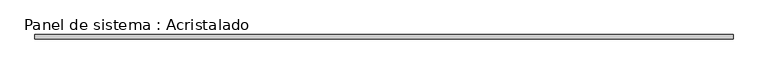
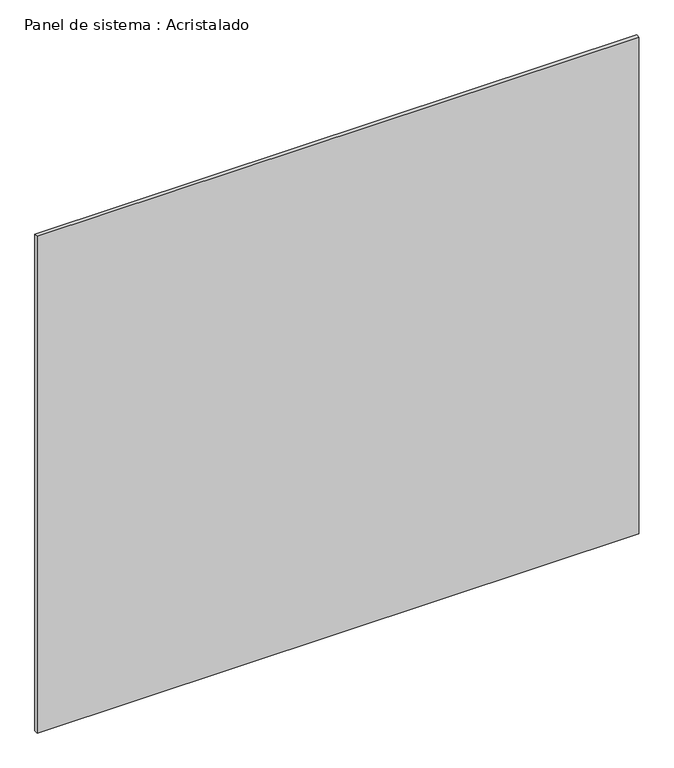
"""IFC4 building model written with IfcOpenShell, lengths in millimetres: plate geometry, Panel de sistema : Acristalado."""

from ifc_helpers import new_model, si_unit, origin, origin_with_axes, place, context, project, spatial, polyline, outline, extrude, source, transform, mapped, element, save


def panel_de_sistema_acristalado_c61f1210(model_context):
    return source(origin(), model_context, "Body", "SweptSolid", [
        extrude(outline(polyline([(1615.2392241, -10.0), (-1615.2392241, -10.0), (-1615.2392241, 10.0), (1615.2392241, 10.0), (1615.2392241, -10.0)])), origin_with_axes(), (0.0, 0.0, 1.0), 2820.0),
    ])


if __name__ == "__main__":
    model = new_model("IFC4")
    model_context = context("Model", 3, world=origin())
    ifc_project = project(units=[si_unit("LENGTHUNIT", "METRE", prefix="MILLI")], contexts=[model_context])
    site = spatial("IfcSite", under=ifc_project)
    building = spatial("IfcBuilding", under=site)
    placement = place(None, origin())
    panel_de_sistema_acristalado_shape = panel_de_sistema_acristalado_c61f1210(model_context)
    element("IfcPlate", 1, ObjectType="Panel de sistema : Acristalado", at=placement, inside=building, context=model_context, shape_type="MappedRepresentation", body=[
        mapped(panel_de_sistema_acristalado_shape, transform((0.0, 0.0, 0.0), x_axis=(1.0, 0.0, 0.0), y_axis=(0.0, 1.0, 0.0), z_axis=(0.0, 0.0, 1.0))),
    ])
    save(model, "model.ifc")
